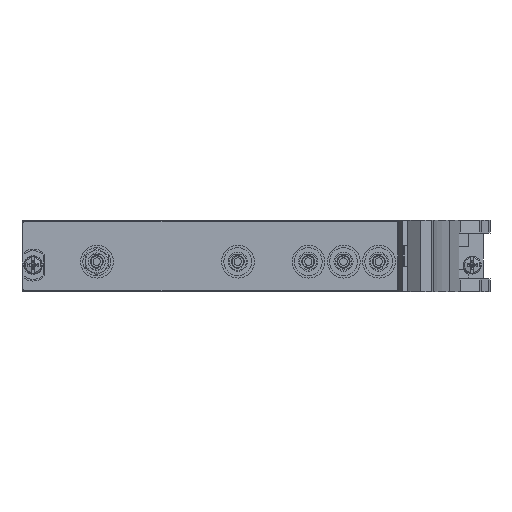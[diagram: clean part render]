
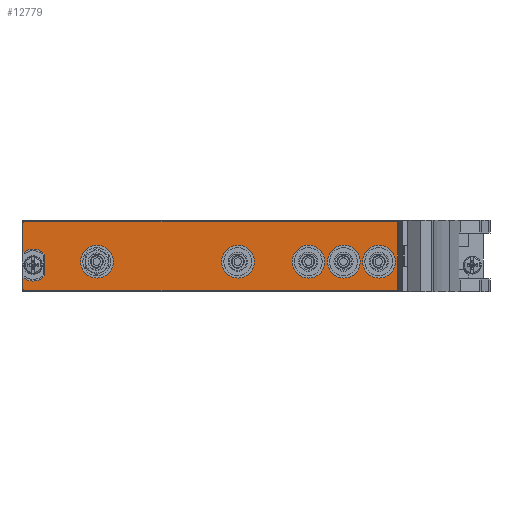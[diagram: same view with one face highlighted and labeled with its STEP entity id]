
A CAD part, left-side view. The second image highlights one B-rep face of the part: STEP entity #12779.
In plain terms, the highlighted planar face has unit normal (-1, 0, 0).
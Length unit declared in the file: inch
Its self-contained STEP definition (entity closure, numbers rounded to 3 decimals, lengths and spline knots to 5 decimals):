
#3170=CARTESIAN_POINT('',(-0.215,0.53465,0.665));
#3171=DIRECTION('',(-1.,0.,0.));
#3172=DIRECTION('',(0.,0.,1.));
#3173=AXIS2_PLACEMENT_3D('',#3170,#3171,#3172);
#3175=DIRECTION('',(0.,1.,0.));
#3176=VECTOR('',#3175,4.07);
#3177=CARTESIAN_POINT('',(-0.215,-3.53535,0.685));
#3178=LINE('',#3177,#3176);
#3179=CARTESIAN_POINT('',(-0.215,-3.53535,0.665));
#3180=DIRECTION('',(-1.,0.,0.));
#3181=DIRECTION('',(0.,-1.,0.));
#3182=AXIS2_PLACEMENT_3D('',#3179,#3180,#3181);
#3184=DIRECTION('',(0.,0.,1.));
#3185=VECTOR('',#3184,0.728);
#3186=CARTESIAN_POINT('',(-0.215,-3.55535,-0.063));
#3187=LINE('',#3186,#3185);
#3188=CARTESIAN_POINT('',(-0.215,-3.53535,-0.063));
#3189=DIRECTION('',(-1.,0.,0.));
#3190=DIRECTION('',(0.,0.,-1.));
#3191=AXIS2_PLACEMENT_3D('',#3188,#3189,#3190);
#3193=DIRECTION('',(0.,-1.,0.));
#3194=VECTOR('',#3193,4.07);
#3195=CARTESIAN_POINT('',(-0.215,0.53465,-0.083));
#3196=LINE('',#3195,#3194);
#3197=CARTESIAN_POINT('',(-0.215,0.53465,-0.063));
#3198=DIRECTION('',(-1.,0.,0.));
#3199=DIRECTION('',(0.,1.,0.));
#3200=AXIS2_PLACEMENT_3D('',#3197,#3198,#3199);
#3202=DIRECTION('',(0.,0.,-1.));
#3203=VECTOR('',#3202,0.12953);
#3204=CARTESIAN_POINT('',(-0.215,0.55465,0.06653));
#3205=LINE('',#3204,#3203);
#3206=CARTESIAN_POINT('',(-0.215,0.44265,0.201));
#3207=DIRECTION('',(1.,0.,0.));
#3208=DIRECTION('',(0.,-0.737,-0.676));
#3209=AXIS2_PLACEMENT_3D('',#3206,#3207,#3208);
#3211=DIRECTION('',(0.,0.,-1.));
#3212=VECTOR('',#3211,0.23651);
#3213=CARTESIAN_POINT('',(-0.215,0.31365,0.31925));
#3214=LINE('',#3213,#3212);
#3215=CARTESIAN_POINT('',(-0.215,0.44265,0.201));
#3216=DIRECTION('',(1.,0.,0.));
#3217=DIRECTION('',(0.,0.64,0.768));
#3218=AXIS2_PLACEMENT_3D('',#3215,#3216,#3217);
#3220=DIRECTION('',(0.,0.,-1.));
#3221=VECTOR('',#3220,0.32953);
#3222=CARTESIAN_POINT('',(-0.215,0.55465,0.665));
#3223=LINE('',#3222,#3221);
#3224=CARTESIAN_POINT('',(-0.215,-2.58135,0.239));
#3225=DIRECTION('',(-1.,0.,0.));
#3226=DIRECTION('',(0.,0.,1.));
#3227=AXIS2_PLACEMENT_3D('',#3224,#3225,#3226);
#3229=CARTESIAN_POINT('',(-0.215,-2.58135,0.239));
#3230=DIRECTION('',(-1.,0.,0.));
#3231=DIRECTION('',(0.,0.,-1.));
#3232=AXIS2_PLACEMENT_3D('',#3229,#3230,#3231);
#3234=CARTESIAN_POINT('',(-0.215,-2.96835,0.239));
#3235=DIRECTION('',(-1.,0.,0.));
#3236=DIRECTION('',(0.,0.,1.));
#3237=AXIS2_PLACEMENT_3D('',#3234,#3235,#3236);
#3239=CARTESIAN_POINT('',(-0.215,-2.96835,0.239));
#3240=DIRECTION('',(-1.,0.,0.));
#3241=DIRECTION('',(0.,0.,-1.));
#3242=AXIS2_PLACEMENT_3D('',#3239,#3240,#3241);
#3244=CARTESIAN_POINT('',(-0.215,-0.25975,0.239));
#3245=DIRECTION('',(1.,0.,0.));
#3246=DIRECTION('',(0.,0.,-1.));
#3247=AXIS2_PLACEMENT_3D('',#3244,#3245,#3246);
#3249=CARTESIAN_POINT('',(-0.215,-0.25975,0.239));
#3250=DIRECTION('',(1.,0.,0.));
#3251=DIRECTION('',(0.,0.,1.));
#3252=AXIS2_PLACEMENT_3D('',#3249,#3250,#3251);
#3254=CARTESIAN_POINT('',(-0.215,-1.80775,0.239));
#3255=DIRECTION('',(1.,0.,0.));
#3256=DIRECTION('',(0.,0.,-1.));
#3257=AXIS2_PLACEMENT_3D('',#3254,#3255,#3256);
#3259=CARTESIAN_POINT('',(-0.215,-1.80775,0.239));
#3260=DIRECTION('',(1.,0.,0.));
#3261=DIRECTION('',(0.,0.,1.));
#3262=AXIS2_PLACEMENT_3D('',#3259,#3260,#3261);
#3264=CARTESIAN_POINT('',(-0.215,-3.35535,0.239));
#3265=DIRECTION('',(-1.,0.,0.));
#3266=DIRECTION('',(0.,0.,1.));
#3267=AXIS2_PLACEMENT_3D('',#3264,#3265,#3266);
#3269=CARTESIAN_POINT('',(-0.215,-3.35535,0.239));
#3270=DIRECTION('',(-1.,0.,0.));
#3271=DIRECTION('',(0.,0.,-1.));
#3272=AXIS2_PLACEMENT_3D('',#3269,#3270,#3271);
#7743=CARTESIAN_POINT('',(-0.215,0.53465,0.685));
#7744=CARTESIAN_POINT('',(-0.215,0.55465,0.665));
#7745=VERTEX_POINT('',#7743);
#7746=VERTEX_POINT('',#7744);
#7747=CARTESIAN_POINT('',(-0.215,0.55465,0.33547));
#7748=VERTEX_POINT('',#7747);
#7749=CARTESIAN_POINT('',(-0.215,0.31365,0.31925));
#7750=VERTEX_POINT('',#7749);
#7751=CARTESIAN_POINT('',(-0.215,0.31365,0.08275));
#7752=VERTEX_POINT('',#7751);
#7753=CARTESIAN_POINT('',(-0.215,0.55465,0.06653));
#7754=VERTEX_POINT('',#7753);
#7755=CARTESIAN_POINT('',(-0.215,0.55465,-0.063));
#7756=VERTEX_POINT('',#7755);
#7757=CARTESIAN_POINT('',(-0.215,0.53465,-0.083));
#7758=VERTEX_POINT('',#7757);
#7759=CARTESIAN_POINT('',(-0.215,-3.53535,-0.083));
#7760=VERTEX_POINT('',#7759);
#7761=CARTESIAN_POINT('',(-0.215,-3.55535,-0.063));
#7762=VERTEX_POINT('',#7761);
#7763=CARTESIAN_POINT('',(-0.215,-3.55535,0.665));
#7764=VERTEX_POINT('',#7763);
#7765=CARTESIAN_POINT('',(-0.215,-3.53535,0.685));
#7766=VERTEX_POINT('',#7765);
#7767=CARTESIAN_POINT('',(-0.215,-0.25975,0.059));
#7768=CARTESIAN_POINT('',(-0.215,-0.25975,0.419));
#7769=VERTEX_POINT('',#7767);
#7770=VERTEX_POINT('',#7768);
#7771=CARTESIAN_POINT('',(-0.215,-3.35535,0.419));
#7772=CARTESIAN_POINT('',(-0.215,-3.35535,0.059));
#7773=VERTEX_POINT('',#7771);
#7774=VERTEX_POINT('',#7772);
#7775=CARTESIAN_POINT('',(-0.215,-1.80775,0.059));
#7776=CARTESIAN_POINT('',(-0.215,-1.80775,0.419));
#7777=VERTEX_POINT('',#7775);
#7778=VERTEX_POINT('',#7776);
#7779=CARTESIAN_POINT('',(-0.215,-2.96835,0.419));
#7780=CARTESIAN_POINT('',(-0.215,-2.96835,0.059));
#7781=VERTEX_POINT('',#7779);
#7782=VERTEX_POINT('',#7780);
#7783=CARTESIAN_POINT('',(-0.215,-2.58135,0.419));
#7784=CARTESIAN_POINT('',(-0.215,-2.58135,0.059));
#7785=VERTEX_POINT('',#7783);
#7786=VERTEX_POINT('',#7784);
#12730=CARTESIAN_POINT('',(-0.215,0.44265,0.201));
#12731=DIRECTION('',(-1.,0.,0.));
#12732=DIRECTION('',(0.,0.,1.));
#12733=AXIS2_PLACEMENT_3D('',#12730,#12731,#12732);
#12734=PLANE('',#12733);
#12735=ORIENTED_EDGE('',*,*,#12570,.F.);
#12736=ORIENTED_EDGE('',*,*,#12585,.F.);
#12737=ORIENTED_EDGE('',*,*,#12599,.F.);
#12738=ORIENTED_EDGE('',*,*,#12613,.F.);
#12739=ORIENTED_EDGE('',*,*,#12627,.F.);
#12740=ORIENTED_EDGE('',*,*,#12641,.F.);
#12741=ORIENTED_EDGE('',*,*,#12655,.F.);
#12742=ORIENTED_EDGE('',*,*,#12669,.F.);
#12743=ORIENTED_EDGE('',*,*,#12683,.F.);
#12744=ORIENTED_EDGE('',*,*,#12697,.F.);
#12745=ORIENTED_EDGE('',*,*,#12711,.F.);
#12746=ORIENTED_EDGE('',*,*,#12724,.F.);
#12747=EDGE_LOOP('',(#12735,#12736,#12737,#12738,#12739,#12740,#12741,#12742,
#12743,#12744,#12745,#12746));
#12748=FACE_OUTER_BOUND('',#12747,.F.);
#12750=ORIENTED_EDGE('',*,*,#12749,.T.);
#12752=ORIENTED_EDGE('',*,*,#12751,.T.);
#12753=EDGE_LOOP('',(#12750,#12752));
#12754=FACE_BOUND('',#12753,.F.);
#12756=ORIENTED_EDGE('',*,*,#12755,.T.);
#12758=ORIENTED_EDGE('',*,*,#12757,.T.);
#12759=EDGE_LOOP('',(#12756,#12758));
#12760=FACE_BOUND('',#12759,.F.);
#12762=ORIENTED_EDGE('',*,*,#12761,.F.);
#12764=ORIENTED_EDGE('',*,*,#12763,.F.);
#12765=EDGE_LOOP('',(#12762,#12764));
#12766=FACE_BOUND('',#12765,.F.);
#12768=ORIENTED_EDGE('',*,*,#12767,.F.);
#12770=ORIENTED_EDGE('',*,*,#12769,.F.);
#12771=EDGE_LOOP('',(#12768,#12770));
#12772=FACE_BOUND('',#12771,.F.);
#12774=ORIENTED_EDGE('',*,*,#12773,.T.);
#12776=ORIENTED_EDGE('',*,*,#12775,.T.);
#12777=EDGE_LOOP('',(#12774,#12776));
#12778=FACE_BOUND('',#12777,.F.);
#12779=ADVANCED_FACE('',(#12748,#12754,#12760,#12766,#12772,#12778),#12734,.T.);
#3174=CIRCLE('',#3173,0.02);
#3183=CIRCLE('',#3182,0.02);
#3192=CIRCLE('',#3191,0.02);
#3201=CIRCLE('',#3200,0.02);
#3210=CIRCLE('',#3209,0.175);
#3219=CIRCLE('',#3218,0.175);
#3228=CIRCLE('',#3227,0.18);
#3233=CIRCLE('',#3232,0.18);
#3238=CIRCLE('',#3237,0.18);
#3243=CIRCLE('',#3242,0.18);
#3248=CIRCLE('',#3247,0.18);
#3253=CIRCLE('',#3252,0.18);
#3258=CIRCLE('',#3257,0.18);
#3263=CIRCLE('',#3262,0.18);
#3268=CIRCLE('',#3267,0.18);
#3273=CIRCLE('',#3272,0.18);
#12570=EDGE_CURVE('',#7745,#7746,#3174,.T.);
#12585=EDGE_CURVE('',#7766,#7745,#3178,.T.);
#12599=EDGE_CURVE('',#7764,#7766,#3183,.T.);
#12613=EDGE_CURVE('',#7762,#7764,#3187,.T.);
#12627=EDGE_CURVE('',#7760,#7762,#3192,.T.);
#12641=EDGE_CURVE('',#7758,#7760,#3196,.T.);
#12655=EDGE_CURVE('',#7756,#7758,#3201,.T.);
#12669=EDGE_CURVE('',#7754,#7756,#3205,.T.);
#12683=EDGE_CURVE('',#7752,#7754,#3210,.T.);
#12697=EDGE_CURVE('',#7750,#7752,#3214,.T.);
#12711=EDGE_CURVE('',#7748,#7750,#3219,.T.);
#12724=EDGE_CURVE('',#7746,#7748,#3223,.T.);
#12749=EDGE_CURVE('',#7785,#7786,#3228,.T.);
#12751=EDGE_CURVE('',#7786,#7785,#3233,.T.);
#12755=EDGE_CURVE('',#7781,#7782,#3238,.T.);
#12757=EDGE_CURVE('',#7782,#7781,#3243,.T.);
#12761=EDGE_CURVE('',#7769,#7770,#3248,.T.);
#12763=EDGE_CURVE('',#7770,#7769,#3253,.T.);
#12767=EDGE_CURVE('',#7777,#7778,#3258,.T.);
#12769=EDGE_CURVE('',#7778,#7777,#3263,.T.);
#12773=EDGE_CURVE('',#7773,#7774,#3268,.T.);
#12775=EDGE_CURVE('',#7774,#7773,#3273,.T.);
